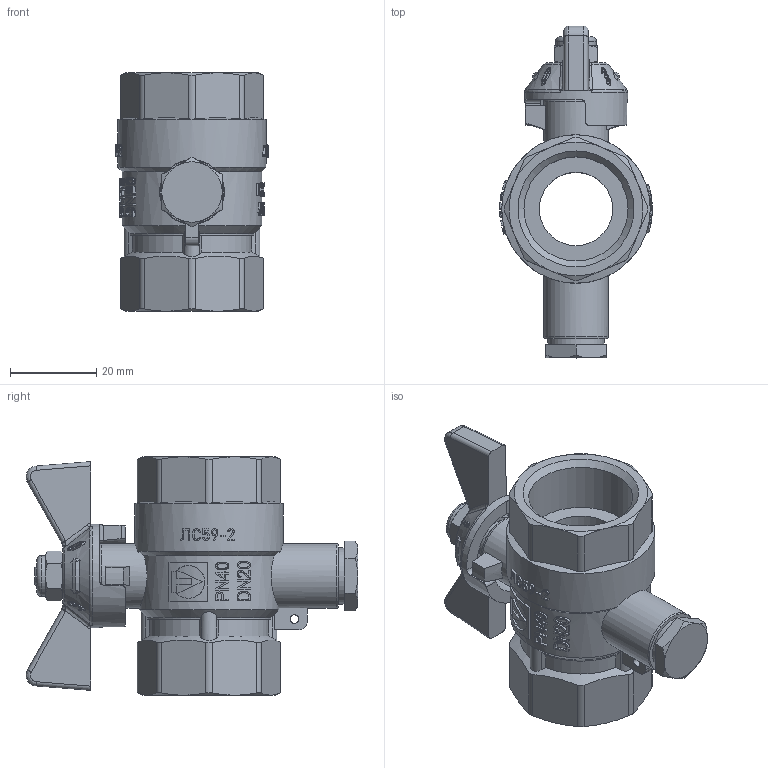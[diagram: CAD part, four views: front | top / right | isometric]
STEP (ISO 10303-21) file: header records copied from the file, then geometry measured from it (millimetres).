
FILE_DESCRIPTION(('STEP AP203'), '1');
FILE_NAME('VT.247S.N.05', '', ('UNSPECIFIED'), ('UNSPECIFIED'), 'C3D Converter', 'C3D Toolkit', '');
FILE_SCHEMA(('CONFIG_CONTROL_DESIGN'));
Length unit declared in the file: millimetre
Products named in the file (1): ВР.491812.018.000 СБ
Bounding box: 35.4 x 76.9 x 55.3 mm (x, y, z)
Volume: 37346.9 mm3; surface area: 15838.2 mm2
Topology: 1 solids, 5 shells, 1615 faces, 4551 edges, 3007 vertices
Faces by surface type: plane 1227, extrusion 163, cylinder 125, cone 67, bspline 24, torus 9
Full cylindrical faces by diameter (mm): 2 x1, 6 x1, 8 x1, 9.5 x1, 10.5 x1, 12 x1, 13 x1, 15 x2, 17 x1, 24 x1, 24.118 x2, 34.4 x1
Entity records: 61580 total; most frequent: CARTESIAN_POINT 26182, ORIENTED_EDGE 9030, DIRECTION 5530, EDGE_CURVE 4515, VERTEX_POINT 3003, VECTOR 1886, AXIS2_PLACEMENT_3D 1822, LINE 1723
